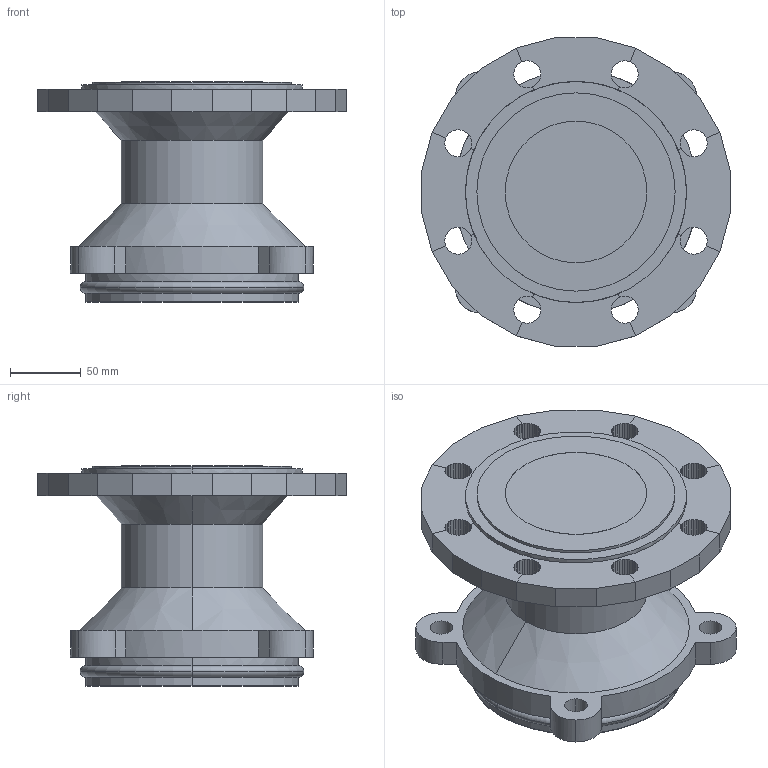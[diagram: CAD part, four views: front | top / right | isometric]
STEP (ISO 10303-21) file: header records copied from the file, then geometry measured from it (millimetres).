
FILE_DESCRIPTION(('CATIA V5 STEP Exchange','CAx-IF Rec.Pracs.--- Model Styling and Organization---1.2---2011-12-15'),'2;1');
FILE_NAME('S:\USER\CAT6\3DPlanerdaten_ab_2012\_pit-cup_ab_03-10-2016\4420\8642_DN150-DN100.stp','2018-03-29T11:31:30+00:00',('none'),('none'),'CATIA Version 5 Release 21 SP 5 (IN-10)','CATIA V5 STEP AP214 Edition 3','none');
FILE_SCHEMA(('AUTOMOTIVE_DESIGN { 1 0 10303 214 3 1 1 1 }'));
Length unit declared in the file: millimetre
Products named in the file (1): 8642_DN150-DN100
Bounding box: 218.12 x 218.12 x 155.4 mm (x, y, z)
Volume: 1684096.6 mm3; surface area: 282150.9 mm2
Topology: 6 solids, 6 shells, 456 faces, 1289 edges, 833 vertices
Faces by surface type: plane 404, cylinder 44, torus 4, cone 4
Entity records: 15296 total; most frequent: CARTESIAN_POINT 3072, ORIENTED_EDGE 2576, DIRECTION 2158, EDGE_CURVE 1288, VECTOR 1135, LINE 1135, VERTEX_POINT 832, AXIS2_PLACEMENT_3D 568
